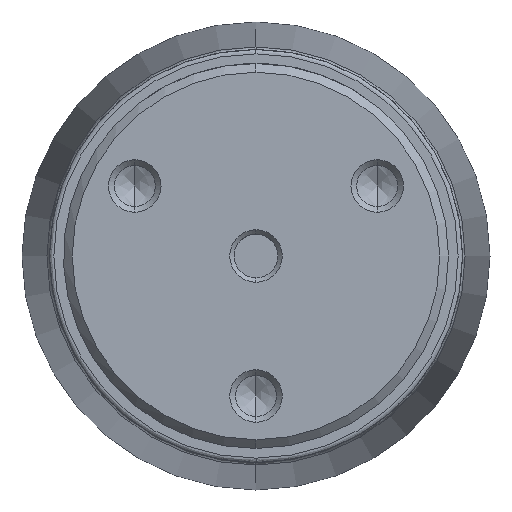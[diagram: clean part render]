
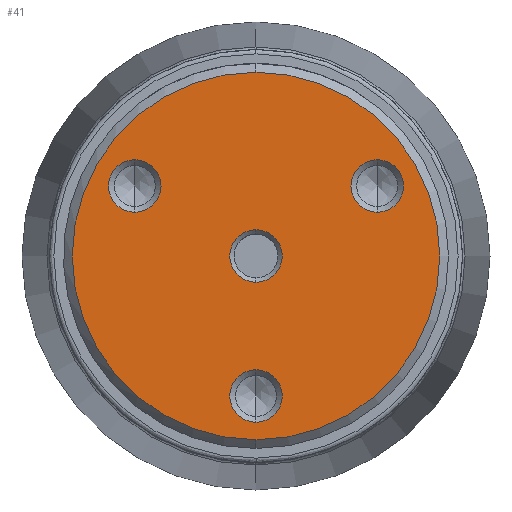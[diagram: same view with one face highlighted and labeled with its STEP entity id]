
A CAD part, left-side view. The second image highlights one B-rep face of the part: STEP entity #41.
In plain terms, the highlighted planar face has unit normal (-1, 0, 0).
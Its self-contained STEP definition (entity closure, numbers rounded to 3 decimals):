
#41=ADVANCED_FACE('',(#121,#122,#123,#124,#125),#120,.F.);
#120=PLANE('',#818);
#121=FACE_OUTER_BOUND('',#819,.T.);
#122=FACE_BOUND('',#820,.T.);
#123=FACE_BOUND('',#821,.T.);
#124=FACE_BOUND('',#822,.T.);
#125=FACE_BOUND('',#823,.T.);
#815=CARTESIAN_POINT('',(-27.,-43.648,27.3));
#816=DIRECTION('',(1.,0.,0.));
#817=DIRECTION('',(0.,0.,-1.));
#818=AXIS2_PLACEMENT_3D('',#815,#816,#817);
#819=EDGE_LOOP('',(#1510,#1511));
#820=EDGE_LOOP('',(#1512,#1513));
#821=EDGE_LOOP('',(#1514,#1515));
#822=EDGE_LOOP('',(#1516,#1517));
#823=EDGE_LOOP('',(#1518,#1519));
#1510=ORIENTED_EDGE('',*,*,#1802,.T.);
#1511=ORIENTED_EDGE('',*,*,#1803,.T.);
#1512=ORIENTED_EDGE('',*,*,#1804,.F.);
#1513=ORIENTED_EDGE('',*,*,#1805,.F.);
#1514=ORIENTED_EDGE('',*,*,#1806,.F.);
#1515=ORIENTED_EDGE('',*,*,#1807,.F.);
#1516=ORIENTED_EDGE('',*,*,#1808,.F.);
#1517=ORIENTED_EDGE('',*,*,#1809,.F.);
#1518=ORIENTED_EDGE('',*,*,#1810,.F.);
#1519=ORIENTED_EDGE('',*,*,#1811,.F.);
#1802=EDGE_CURVE('',#1972,#1973,#1974,.T.);
#1803=EDGE_CURVE('',#1973,#1972,#1980,.T.);
#1804=EDGE_CURVE('',#1986,#1987,#1988,.T.);
#1805=EDGE_CURVE('',#1987,#1986,#1994,.T.);
#1806=EDGE_CURVE('',#2000,#2001,#2002,.T.);
#1807=EDGE_CURVE('',#2001,#2000,#2008,.T.);
#1808=EDGE_CURVE('',#2014,#2015,#2016,.T.);
#1809=EDGE_CURVE('',#2015,#2014,#2022,.T.);
#1810=EDGE_CURVE('',#2028,#2029,#2030,.T.);
#1811=EDGE_CURVE('',#2029,#2028,#2036,.T.);
#1972=VERTEX_POINT('',#2927);
#1973=VERTEX_POINT('',#2928);
#1974=CIRCLE('',#2932,21.);
#1980=CIRCLE('',#2936,21.);
#1986=VERTEX_POINT('',#2937);
#1987=VERTEX_POINT('',#2938);
#1988=CIRCLE('',#2942,3.);
#1994=CIRCLE('',#2946,3.);
#2000=VERTEX_POINT('',#2947);
#2001=VERTEX_POINT('',#2948);
#2002=CIRCLE('',#2952,3.);
#2008=CIRCLE('',#2956,3.);
#2014=VERTEX_POINT('',#2957);
#2015=VERTEX_POINT('',#2958);
#2016=CIRCLE('',#2962,3.);
#2022=CIRCLE('',#2966,3.);
#2028=VERTEX_POINT('',#2967);
#2029=VERTEX_POINT('',#2968);
#2030=CIRCLE('',#2972,3.);
#2036=CIRCLE('',#2976,3.);
#2927=CARTESIAN_POINT('',(-27.,0.,21.));
#2928=CARTESIAN_POINT('',(-27.,0.,-21.));
#2929=CARTESIAN_POINT('',(-27.,0.,0.));
#2930=DIRECTION('',(-1.,0.,0.));
#2931=DIRECTION('',(0.,0.,1.));
#2932=AXIS2_PLACEMENT_3D('',#2929,#2930,#2931);
#2933=CARTESIAN_POINT('',(-27.,0.,0.));
#2934=DIRECTION('',(-1.,0.,0.));
#2935=DIRECTION('',(0.,0.,1.));
#2936=AXIS2_PLACEMENT_3D('',#2933,#2934,#2935);
#2937=CARTESIAN_POINT('',(-27.,0.,-3.));
#2938=CARTESIAN_POINT('',(-27.,0.,3.));
#2939=CARTESIAN_POINT('',(-27.,0.,0.));
#2940=DIRECTION('',(-1.,0.,0.));
#2941=DIRECTION('',(0.,0.,1.));
#2942=AXIS2_PLACEMENT_3D('',#2939,#2940,#2941);
#2943=CARTESIAN_POINT('',(-27.,0.,0.));
#2944=DIRECTION('',(-1.,0.,0.));
#2945=DIRECTION('',(0.,0.,1.));
#2946=AXIS2_PLACEMENT_3D('',#2943,#2944,#2945);
#2947=CARTESIAN_POINT('',(-27.,13.856,5.));
#2948=CARTESIAN_POINT('',(-27.,13.856,11.));
#2949=CARTESIAN_POINT('',(-27.,13.856,8.));
#2950=DIRECTION('',(-1.,0.,0.));
#2951=DIRECTION('',(0.,0.,1.));
#2952=AXIS2_PLACEMENT_3D('',#2949,#2950,#2951);
#2953=CARTESIAN_POINT('',(-27.,13.856,8.));
#2954=DIRECTION('',(-1.,0.,0.));
#2955=DIRECTION('',(0.,0.,1.));
#2956=AXIS2_PLACEMENT_3D('',#2953,#2954,#2955);
#2957=CARTESIAN_POINT('',(-27.,0.,-19.));
#2958=CARTESIAN_POINT('',(-27.,0.,-13.));
#2959=CARTESIAN_POINT('',(-27.,0.,-16.));
#2960=DIRECTION('',(-1.,0.,0.));
#2961=DIRECTION('',(0.,0.,1.));
#2962=AXIS2_PLACEMENT_3D('',#2959,#2960,#2961);
#2963=CARTESIAN_POINT('',(-27.,0.,-16.));
#2964=DIRECTION('',(-1.,0.,0.));
#2965=DIRECTION('',(0.,0.,1.));
#2966=AXIS2_PLACEMENT_3D('',#2963,#2964,#2965);
#2967=CARTESIAN_POINT('',(-27.,-13.856,5.));
#2968=CARTESIAN_POINT('',(-27.,-13.856,11.));
#2969=CARTESIAN_POINT('',(-27.,-13.856,8.));
#2970=DIRECTION('',(-1.,0.,0.));
#2971=DIRECTION('',(0.,0.,1.));
#2972=AXIS2_PLACEMENT_3D('',#2969,#2970,#2971);
#2973=CARTESIAN_POINT('',(-27.,-13.856,8.));
#2974=DIRECTION('',(-1.,0.,0.));
#2975=DIRECTION('',(0.,0.,1.));
#2976=AXIS2_PLACEMENT_3D('',#2973,#2974,#2975);
